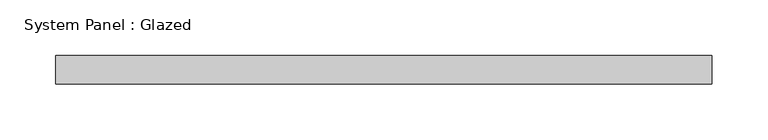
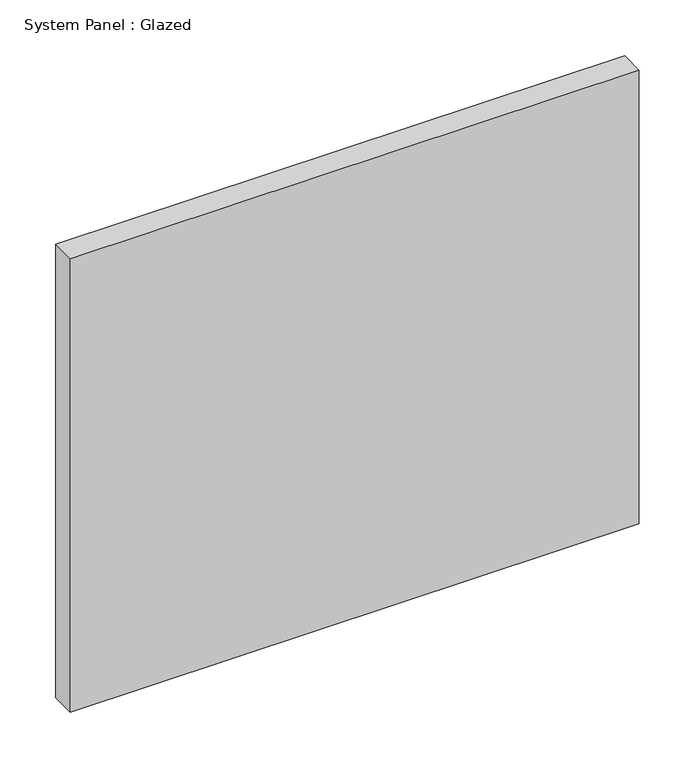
"""IFC4 building model written with IfcOpenShell, lengths in millimetres: plate geometry, System Panel : Glazed."""

from ifc_helpers import new_model, si_unit, origin, origin_with_axes, place, context, project, spatial, polyline, outline, extrude, source, transform, mapped, element, save


def system_panel_glazed_105315ef(model_context):
    return source(origin(), model_context, "Body", "SweptSolid", [
        extrude(outline(polyline([(293.9897663, -12.7), (-293.9897663, -12.7), (-293.9897663, 12.7), (293.9897663, 12.7), (293.9897663, -12.7)])), origin_with_axes(), (0.0, 0.0, 1.0), 495.3),
    ])


if __name__ == "__main__":
    model = new_model("IFC4")
    model_context = context("Model", 3, world=origin())
    ifc_project = project(units=[si_unit("LENGTHUNIT", "METRE", prefix="MILLI")], contexts=[model_context])
    site = spatial("IfcSite", under=ifc_project)
    building = spatial("IfcBuilding", under=site)
    placement = place(None, origin())
    system_panel_glazed_shape = system_panel_glazed_105315ef(model_context)
    element("IfcPlate", 1, ObjectType="System Panel : Glazed", at=placement, inside=building, context=model_context, shape_type="MappedRepresentation", body=[
        mapped(system_panel_glazed_shape, transform((0.0, 0.0, 0.0), x_axis=(1.0, 0.0, 0.0), y_axis=(0.0, 1.0, 0.0), z_axis=(0.0, 0.0, 1.0))),
    ])
    save(model, "model.ifc")
